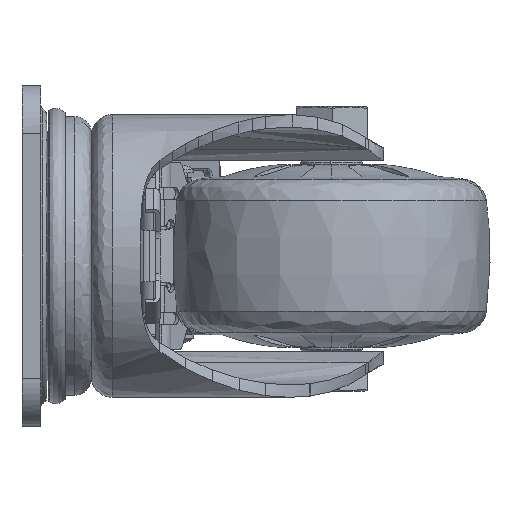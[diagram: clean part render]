
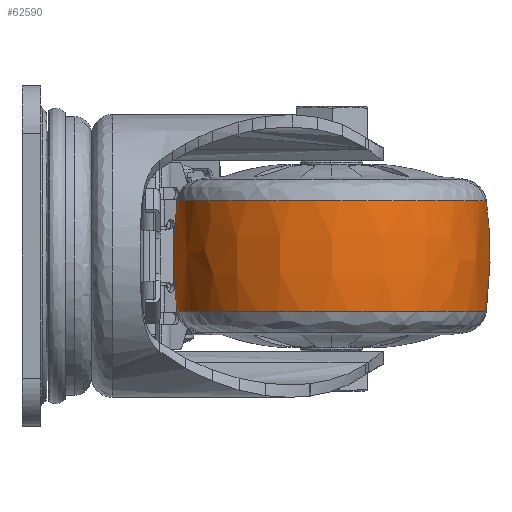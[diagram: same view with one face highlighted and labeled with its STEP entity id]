
A CAD part, left-side view. The second image highlights one B-rep face of the part: STEP entity #62590.
In plain terms, the highlighted free-form (B-spline) face has degree [3, 3] with [4, 4] control points.
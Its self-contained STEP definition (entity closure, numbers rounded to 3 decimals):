
#94 = VERTEX_POINT ( 'NONE', #92140 ) ;
#1205 = CARTESIAN_POINT ( 'NONE',  ( 37., -111.714, 13.279 ) ) ;
#2202 = CARTESIAN_POINT ( 'NONE',  ( -37.429, -37.286, 13.279 ) ) ;
#7620 =( BOUNDED_CURVE ( )  B_SPLINE_CURVE ( 3, ( #70551, #2202, #55255, #1205 ),
 .UNSPECIFIED., .F., .F. ) 
 B_SPLINE_CURVE_WITH_KNOTS ( ( 4, 4 ),
 ( 0., 3.142 ),
 .UNSPECIFIED. ) 
 CURVE ( )  GEOMETRIC_REPRESENTATION_ITEM ( )  RATIONAL_B_SPLINE_CURVE ( ( 1., 0.333, 0.333, 1. ) ) 
 REPRESENTATION_ITEM ( '' )  );
#9588 = CARTESIAN_POINT ( 'NONE',  ( 37., -112.897, 4.452 ) ) ;
#10079 = CARTESIAN_POINT ( 'NONE',  ( -39.794, -112.897, 4.452 ) ) ;
#17240 = CARTESIAN_POINT ( 'NONE',  ( -37.429, -37.286, 13.279 ) ) ;
#22054 = CARTESIAN_POINT ( 'NONE',  ( 37., -37.286, 13.279 ) ) ;
#22568 = CARTESIAN_POINT ( 'NONE',  ( 37., -37.286, -13.279 ) ) ;
#25401 = CARTESIAN_POINT ( 'NONE',  ( -39.794, -36.103, -4.452 ) ) ;
#26404 = CARTESIAN_POINT ( 'NONE',  ( 37., -37.286, 13.279 ) ) ;
#27480 = VERTEX_POINT ( 'NONE', #86266 ) ;
#27776 = CARTESIAN_POINT ( 'NONE',  ( 37., -37.286, 13.279 ) ) ;
#28653 =( BOUNDED_SURFACE ( )  B_SPLINE_SURFACE ( 3, 3, ( 
 ( #34072, #94249, #17240, #26404 ),
 ( #9588, #10079, #48861, #40694 ),
 ( #71826, #32065, #25401, #56521 ),
 ( #57529, #88605, #87590, #70822 ) ),
 .UNSPECIFIED., .F., .F., .F. ) 
 B_SPLINE_SURFACE_WITH_KNOTS ( ( 4, 4 ),
 ( 4, 4 ),
 ( 0., 1. ),
 ( 0., 1. ),
 .UNSPECIFIED. ) 
 GEOMETRIC_REPRESENTATION_ITEM ( )  RATIONAL_B_SPLINE_SURFACE ( (
 ( 1., 0.333, 0.333, 1.),
 ( 0.994, 0.331, 0.331, 0.994),
 ( 0.994, 0.331, 0.331, 0.994),
 ( 1., 0.333, 0.333, 1.) ) ) 
 REPRESENTATION_ITEM ( '' )  SURFACE ( )  );
#30263 = EDGE_CURVE ( 'NONE', #75968, #94, #58054, .T. ) ;
#32065 = CARTESIAN_POINT ( 'NONE',  ( -39.794, -112.897, -4.452 ) ) ;
#32967 = EDGE_CURVE ( 'NONE', #35785, #27480, #53575, .T. ) ;
#34072 = CARTESIAN_POINT ( 'NONE',  ( 37., -111.714, 13.279 ) ) ;
#35785 = VERTEX_POINT ( 'NONE', #59580 ) ;
#40694 = CARTESIAN_POINT ( 'NONE',  ( 37., -36.103, 4.452 ) ) ;
#41704 = FACE_OUTER_BOUND ( 'NONE', #94237, .T. ) ;
#45452 = CARTESIAN_POINT ( 'NONE',  ( -37.429, -37.286, -13.279 ) ) ;
#48861 = CARTESIAN_POINT ( 'NONE',  ( -39.794, -36.103, 4.452 ) ) ;
#51008 = ORIENTED_EDGE ( 'NONE', *, *, #97221, .T. ) ;
#52706 = CARTESIAN_POINT ( 'NONE',  ( 37., -112.897, 4.452 ) ) ;
#53575 =( BOUNDED_CURVE ( )  B_SPLINE_CURVE ( 3, ( #97091, #74150, #52706, #99063 ),
 .UNSPECIFIED., .F., .F. ) 
 B_SPLINE_CURVE_WITH_KNOTS ( ( 4, 4 ),
 ( 0., 0.266 ),
 .UNSPECIFIED. ) 
 CURVE ( )  GEOMETRIC_REPRESENTATION_ITEM ( )  RATIONAL_B_SPLINE_CURVE ( ( 1., 0.994, 0.994, 1. ) ) 
 REPRESENTATION_ITEM ( '' )  );
#55255 = CARTESIAN_POINT ( 'NONE',  ( -37.429, -111.714, 13.279 ) ) ;
#56521 = CARTESIAN_POINT ( 'NONE',  ( 37., -36.103, -4.452 ) ) ;
#57529 = CARTESIAN_POINT ( 'NONE',  ( 37., -111.714, -13.279 ) ) ;
#58054 =( BOUNDED_CURVE ( )  B_SPLINE_CURVE ( 3, ( #22054, #67491, #69011, #22568 ),
 .UNSPECIFIED., .F., .F. ) 
 B_SPLINE_CURVE_WITH_KNOTS ( ( 4, 4 ),
 ( 0., 0.266 ),
 .UNSPECIFIED. ) 
 CURVE ( )  GEOMETRIC_REPRESENTATION_ITEM ( )  RATIONAL_B_SPLINE_CURVE ( ( 1., 0.994, 0.994, 1. ) ) 
 REPRESENTATION_ITEM ( '' )  );
#59580 = CARTESIAN_POINT ( 'NONE',  ( 37., -111.714, -13.279 ) ) ;
#62590 = ADVANCED_FACE ( 'NONE', ( #41704 ), #28653, .T. ) ;
#67491 = CARTESIAN_POINT ( 'NONE',  ( 37., -36.103, 4.452 ) ) ;
#69011 = CARTESIAN_POINT ( 'NONE',  ( 37., -36.103, -4.452 ) ) ;
#70551 = CARTESIAN_POINT ( 'NONE',  ( 37., -37.286, 13.279 ) ) ;
#70822 = CARTESIAN_POINT ( 'NONE',  ( 37., -37.286, -13.279 ) ) ;
#71626 =( BOUNDED_CURVE ( )  B_SPLINE_CURVE ( 3, ( #85211, #91349, #45452, #100513 ),
 .UNSPECIFIED., .F., .F. ) 
 B_SPLINE_CURVE_WITH_KNOTS ( ( 4, 4 ),
 ( 0., 3.142 ),
 .UNSPECIFIED. ) 
 CURVE ( )  GEOMETRIC_REPRESENTATION_ITEM ( )  RATIONAL_B_SPLINE_CURVE ( ( 1., 0.333, 0.333, 1. ) ) 
 REPRESENTATION_ITEM ( '' )  );
#71826 = CARTESIAN_POINT ( 'NONE',  ( 37., -112.897, -4.452 ) ) ;
#74150 = CARTESIAN_POINT ( 'NONE',  ( 37., -112.897, -4.452 ) ) ;
#75968 = VERTEX_POINT ( 'NONE', #27776 ) ;
#85183 = ORIENTED_EDGE ( 'NONE', *, *, #91506, .T. ) ;
#85211 = CARTESIAN_POINT ( 'NONE',  ( 37., -111.714, -13.279 ) ) ;
#86266 = CARTESIAN_POINT ( 'NONE',  ( 37., -111.714, 13.279 ) ) ;
#87590 = CARTESIAN_POINT ( 'NONE',  ( -37.429, -37.286, -13.279 ) ) ;
#88605 = CARTESIAN_POINT ( 'NONE',  ( -37.429, -111.714, -13.279 ) ) ;
#88845 = ORIENTED_EDGE ( 'NONE', *, *, #30263, .F. ) ;
#91349 = CARTESIAN_POINT ( 'NONE',  ( -37.429, -111.714, -13.279 ) ) ;
#91506 = EDGE_CURVE ( 'NONE', #75968, #27480, #7620, .T. ) ;
#92140 = CARTESIAN_POINT ( 'NONE',  ( 37., -37.286, -13.279 ) ) ;
#94237 = EDGE_LOOP ( 'NONE', ( #88845, #85183, #94846, #51008 ) ) ;
#94249 = CARTESIAN_POINT ( 'NONE',  ( -37.429, -111.714, 13.279 ) ) ;
#94846 = ORIENTED_EDGE ( 'NONE', *, *, #32967, .F. ) ;
#97091 = CARTESIAN_POINT ( 'NONE',  ( 37., -111.714, -13.279 ) ) ;
#97221 = EDGE_CURVE ( 'NONE', #35785, #94, #71626, .T. ) ;
#99063 = CARTESIAN_POINT ( 'NONE',  ( 37., -111.714, 13.279 ) ) ;
#100513 = CARTESIAN_POINT ( 'NONE',  ( 37., -37.286, -13.279 ) ) ;
